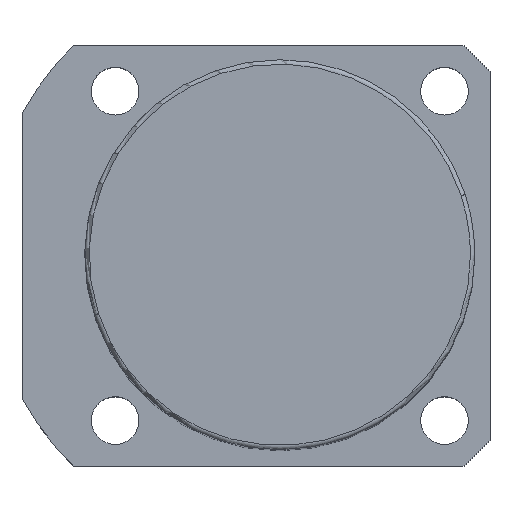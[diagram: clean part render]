
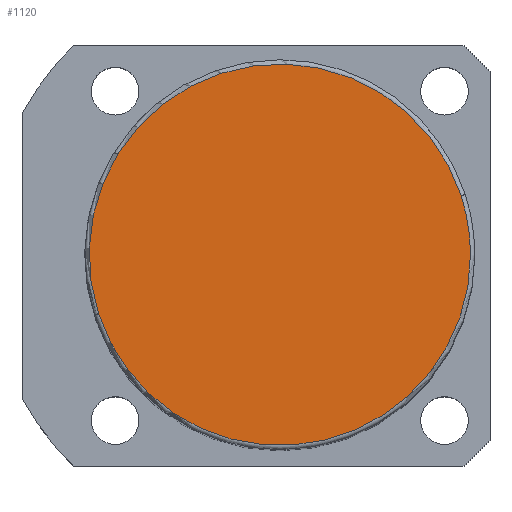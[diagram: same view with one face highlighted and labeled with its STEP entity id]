
A CAD part, top view. The second image highlights one B-rep face of the part: STEP entity #1120.
In plain terms, the highlighted planar face has unit normal (0, 0, 1).
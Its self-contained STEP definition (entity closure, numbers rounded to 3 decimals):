
#1086=CARTESIAN_POINT('',(44.0,0.0,166.5));
#1087=VERTEX_POINT('',#1086);
#1088=CARTESIAN_POINT('',(41.846,13.597,166.5));
#1089=VERTEX_POINT('',#1088);
#1090=CARTESIAN_POINT('',(0.0,0.0,166.5));
#1091=DIRECTION('',(0.0,0.0,1.0));
#1092=DIRECTION('',(1.0,0.0,0.0));
#1093=AXIS2_PLACEMENT_3D('',#1090,#1091,#1092);
#1094=CIRCLE('',#1093,44.0);
#1095=EDGE_CURVE('no 1692',#1087,#1089,#1094,.T.);
#1096=ORIENTED_EDGE('',*,*,#1095,.T.);
#1097=CARTESIAN_POINT('',(-41.846,-13.597,166.5));
#1098=VERTEX_POINT('',#1097);
#1099=CARTESIAN_POINT('',(0.0,0.0,166.5));
#1100=DIRECTION('',(0.0,0.0,1.0));
#1101=DIRECTION('',(1.0,0.0,0.0));
#1102=AXIS2_PLACEMENT_3D('',#1099,#1100,#1101);
#1103=CIRCLE('',#1102,44.0);
#1104=EDGE_CURVE('no 1698',#1089,#1098,#1103,.T.);
#1105=ORIENTED_EDGE('',*,*,#1104,.T.);
#1106=CARTESIAN_POINT('',(0.0,0.0,166.5));
#1107=DIRECTION('',(0.0,0.0,1.0));
#1108=DIRECTION('',(1.0,0.0,0.0));
#1109=AXIS2_PLACEMENT_3D('',#1106,#1107,#1108);
#1110=CIRCLE('',#1109,44.0);
#1111=EDGE_CURVE('no 1702',#1098,#1087,#1110,.T.);
#1112=ORIENTED_EDGE('',*,*,#1111,.T.);
#1113=EDGE_LOOP('',(#1096,#1105,#1112));
#1114=FACE_OUTER_BOUND('',#1113,.T.);
#1115=CARTESIAN_POINT('',(0.0,0.0,166.5));
#1116=DIRECTION('',(0.0,0.0,1.0));
#1117=DIRECTION('',(1.0,0.0,0.0));
#1118=AXIS2_PLACEMENT_3D('',#1115,#1116,#1117);
#1119=PLANE('',#1118);
#1120=ADVANCED_FACE('no 1683',(#1114),#1119,.T.);
